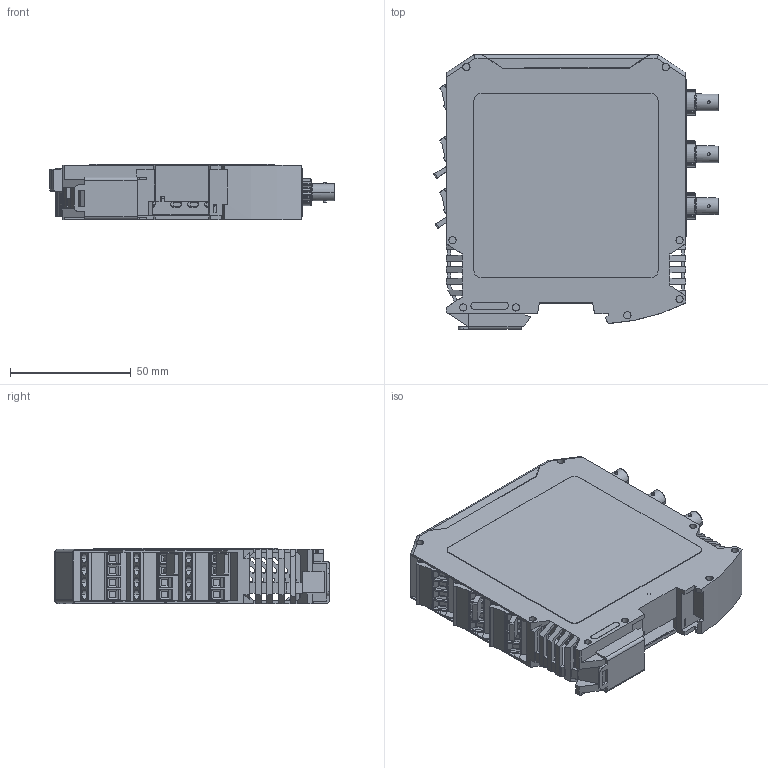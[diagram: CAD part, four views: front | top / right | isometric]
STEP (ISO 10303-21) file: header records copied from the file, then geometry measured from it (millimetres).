
FILE_DESCRIPTION (( 'STEP AP214' ), '1' );
FILE_NAME ('FTX-300-LUX+.STEP', '2015-11-17T22:15:32', ( 'Daryl' ), ( 'Microsoft' ), 'SwSTEP 2.0', 'SolidWorks 2014', '' );
FILE_SCHEMA (( 'AUTOMOTIVE_DESIGN' ));
Length unit declared in the file: millimetre
Products named in the file (1): FTX-300-LUX+
Bounding box: 117.68 x 113.78 x 22.95 mm (x, y, z)
Volume: 64032.9 mm3; surface area: 84930.6 mm2
Topology: 2 solids, 26 shells, 4502 faces, 12819 edges, 8449 vertices
Faces by surface type: plane 2744, cylinder 979, bspline 750, cone 22, torus 4, sphere 3
Entity records: 245775 total; most frequent: CARTESIAN_POINT 83253, ORIENTED_EDGE 25638, DIRECTION 20109, EDGE_CURVE 12819, VECTOR 8831, LINE 8831, VERTEX_POINT 8449, AXIS2_PLACEMENT_3D 5639
